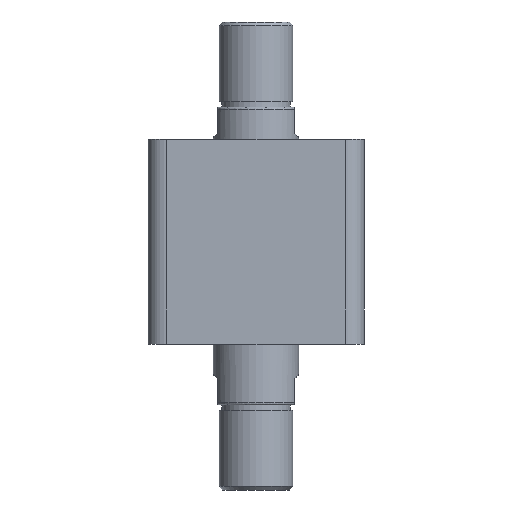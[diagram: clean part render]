
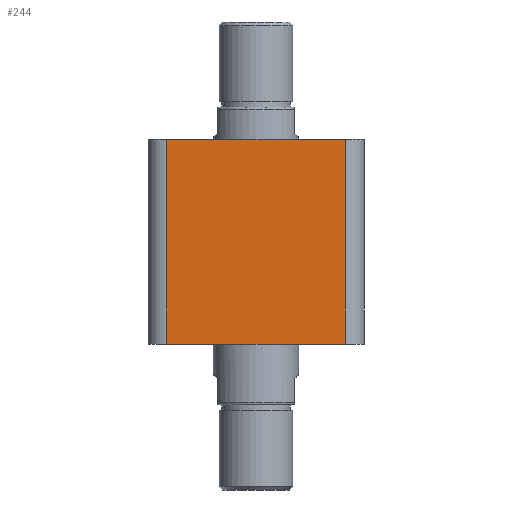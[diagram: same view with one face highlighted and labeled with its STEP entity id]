
A CAD part, front view. The second image highlights one B-rep face of the part: STEP entity #244.
In plain terms, the highlighted planar face has unit normal (0, -1, 0).
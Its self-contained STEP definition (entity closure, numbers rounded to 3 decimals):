
#88 = CARTESIAN_POINT ( 'NONE',  ( -57., -57., 108. ) ) ;
#101 = DIRECTION ( 'NONE',  ( 0., 0., 1. ) ) ;
#102 = DIRECTION ( 'NONE',  ( 0., 1., 0. ) ) ;
#104 = PLANE ( 'NONE',  #3035 ) ;
#244 = ADVANCED_FACE ( 'NONE', ( #787 ), #104, .F. ) ;
#523 = EDGE_LOOP ( 'NONE', ( #1231, #1230, #1229, #1228 ) ) ;
#787 = FACE_OUTER_BOUND ( 'NONE', #523, .T. ) ;
#1228 = ORIENTED_EDGE ( 'NONE', *, *, #2863, .T. ) ;
#1229 = ORIENTED_EDGE ( 'NONE', *, *, #2864, .F. ) ;
#1230 = ORIENTED_EDGE ( 'NONE', *, *, #2865, .T. ) ;
#1231 = ORIENTED_EDGE ( 'NONE', *, *, #2866, .T. ) ;
#1645 = DIRECTION ( 'NONE',  ( 0., 0., -1. ) ) ;
#1662 = CARTESIAN_POINT ( 'NONE',  ( -57., -57., 108. ) ) ;
#1663 = CARTESIAN_POINT ( 'NONE',  ( -47., -57., 108. ) ) ;
#1667 = DIRECTION ( 'NONE',  ( 1., 0., 0. ) ) ;
#1668 = CARTESIAN_POINT ( 'NONE',  ( 47., -57., 108. ) ) ;
#1669 = DIRECTION ( 'NONE',  ( 0., 0., 1. ) ) ;
#1670 = CARTESIAN_POINT ( 'NONE',  ( -57., -57., 0. ) ) ;
#1671 = DIRECTION ( 'NONE',  ( 1., 0., 0. ) ) ;
#1965 = LINE ( 'NONE', #1663, #1968 ) ;
#1966 = LINE ( 'NONE', #1662, #1970 ) ;
#1968 = VECTOR ( 'NONE', #1645, 1000. ) ;
#1969 = LINE ( 'NONE', #1668, #1972 ) ;
#1970 = VECTOR ( 'NONE', #1667, 1000. ) ;
#1971 = LINE ( 'NONE', #1670, #1974 ) ;
#1972 = VECTOR ( 'NONE', #1669, 1000. ) ;
#1974 = VECTOR ( 'NONE', #1671, 1000. ) ;
#2714 = CARTESIAN_POINT ( 'NONE',  ( -47., -57., 108. ) ) ;
#2732 = CARTESIAN_POINT ( 'NONE',  ( -47., -57., 0. ) ) ;
#2735 = CARTESIAN_POINT ( 'NONE',  ( 47., -57., 0. ) ) ;
#2753 = CARTESIAN_POINT ( 'NONE',  ( 47., -57., 108. ) ) ;
#2863 = EDGE_CURVE ( 'NONE', #3370, #3390, #1965, .T. ) ;
#2864 = EDGE_CURVE ( 'NONE', #3370, #3433, #1966, .T. ) ;
#2865 = EDGE_CURVE ( 'NONE', #3388, #3433, #1969, .T. ) ;
#2866 = EDGE_CURVE ( 'NONE', #3390, #3388, #1971, .T. ) ;
#3035 = AXIS2_PLACEMENT_3D ( 'NONE', #88, #102, #101 ) ;
#3370 = VERTEX_POINT ( 'NONE', #2714 ) ;
#3388 = VERTEX_POINT ( 'NONE', #2735 ) ;
#3390 = VERTEX_POINT ( 'NONE', #2732 ) ;
#3433 = VERTEX_POINT ( 'NONE', #2753 ) ;
